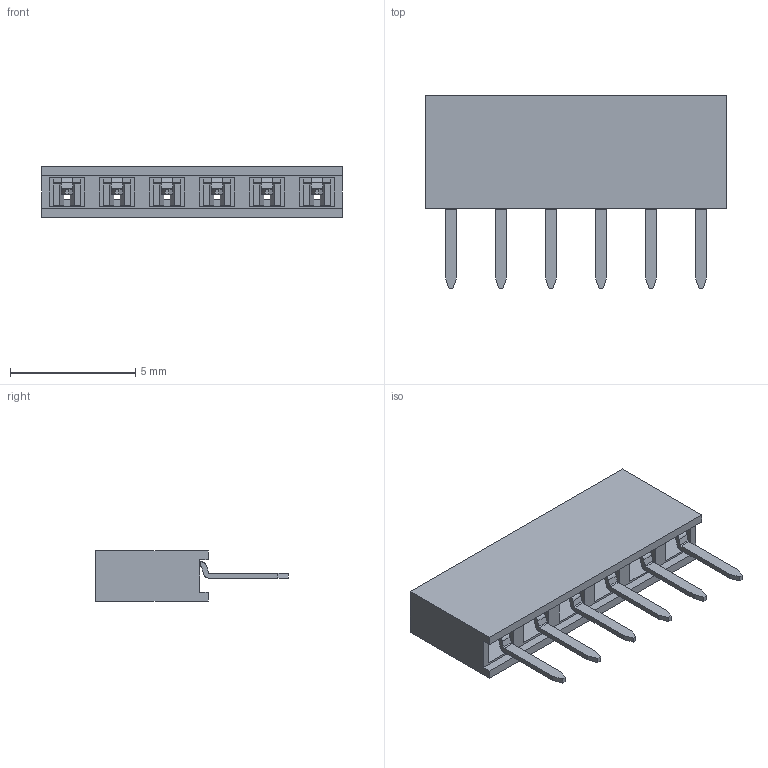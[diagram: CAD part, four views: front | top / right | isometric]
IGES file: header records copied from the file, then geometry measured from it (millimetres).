
Start section: SolidWorks IGES file using analytic representation for surfaces
Global section: file name: D:\圖面工作\3D\未歸檔資料\待歸檔\2141-1x06G00SB\2141-1X06G00SA.IGS; native system: SolidWorks 2011; preprocessor: SolidWorks 2011; author: rd03; date: 160302.080818; units: millimetre
Bounding box: 12 x 7.7 x 2 mm (x, y, z)
Surface area: 388.3 mm2 (no closed solid volume)
Topology: 0 solids, 0 shells, 418 faces, 2388 edges, 2370 vertices
Faces by surface type: bspline 310, revolution 108
